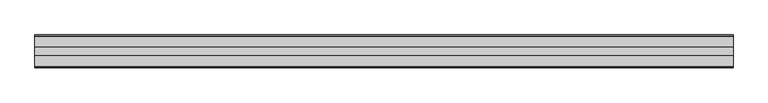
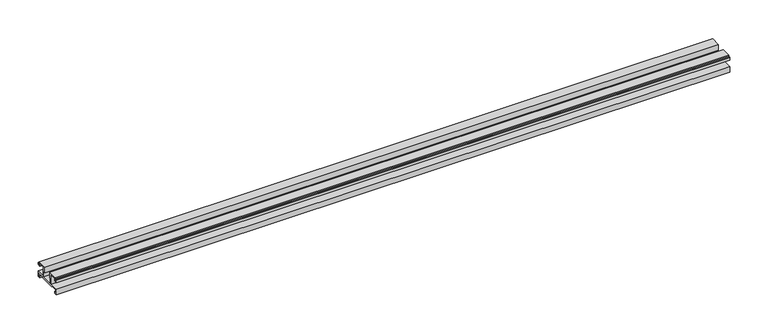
"""IFC4 building model written with IfcOpenShell, lengths in millimetres: proxy geometry, Weiku - Montante - Acoplamento vidro : Weiku - Montante - Acoplamento vidro."""

from ifc_helpers import new_model, si_unit, frame, origin, place, context, project, spatial, polyline, outline, extrude, source, transform, mapped, element, save


def generic_models_bad1af7f(model_context):
    return source(origin(), model_context, "Body", "SweptSolid", [
        extrude(outline(polyline([(35.405, 5.1494), (12.495, 5.1494), (12.495, 6.8004), (2.159, 6.8004), (2.159, 2.6094), (4.0216, 2.6094), (4.0216, 0.0), (-0.0014508, 0.0), (-0.0014508, 8.79), (12.954, 8.79), (12.954, 23.3104), (4.3603, 23.3104), (4.3603, 19.204), (0.0, 19.204), (0.0, 22.8024), (0.9736, 22.8024), (0.9736, 20.3894), (3.175, 20.3894), (3.175, 23.9454), (2.3735496, 23.9454), (2.3735496, 25.3), (17.4836, 25.3), (17.4836, 16.283), (15.4516, 16.283), (15.4516, 8.8), (32.4484, 8.8), (32.4484, 16.283), (30.4164, 16.283), (30.4164, 25.3), (45.5264504, 25.3), (45.5264504, 23.9454), (44.725, 23.9454), (44.725, 20.3894), (46.9264, 20.3894), (46.9264, 22.8024), (47.9, 22.8024), (47.9, 19.204), (43.5397, 19.204), (43.5397, 23.3104), (34.946, 23.3104), (34.946, 8.79), (47.9014508, 8.79), (47.9014508, 0.0), (43.8784, 0.0), (43.8784, 2.6094), (45.741, 2.6094), (45.741, 6.8004), (35.405, 6.8004), (35.405, 5.1494)])), frame((-510.4, 0.0, 0.0), z_axis=(1.0, 0.0, 0.0), x_axis=(0.0, 1.0, 0.0)), (0.0, 0.0, 1.0), 1020.8),
    ])


if __name__ == "__main__":
    model = new_model("IFC4")
    model_context = context("Model", 3, world=origin())
    ifc_project = project(units=[si_unit("LENGTHUNIT", "METRE", prefix="MILLI")], contexts=[model_context])
    site = spatial("IfcSite", under=ifc_project)
    building = spatial("IfcBuilding", under=site)
    placement = place(None, origin())
    generic_models_shape = generic_models_bad1af7f(model_context)
    element("IfcBuildingElementProxy", 1, Name="Weiku - Montante - Acoplamento vidro : Weiku - Montante - Acoplamento vidro", ObjectType="Weiku - Montante - Acoplamento vidro : Weiku - Montante - Acoplamento vidro", at=placement, inside=building, context=model_context, shape_type="MappedRepresentation", body=[
        mapped(generic_models_shape, transform((0.0, 0.0, 0.0), x_axis=(1.0, 0.0, 0.0), y_axis=(0.0, 1.0, 0.0), z_axis=(0.0, 0.0, 1.0))),
    ])
    save(model, "model.ifc")
